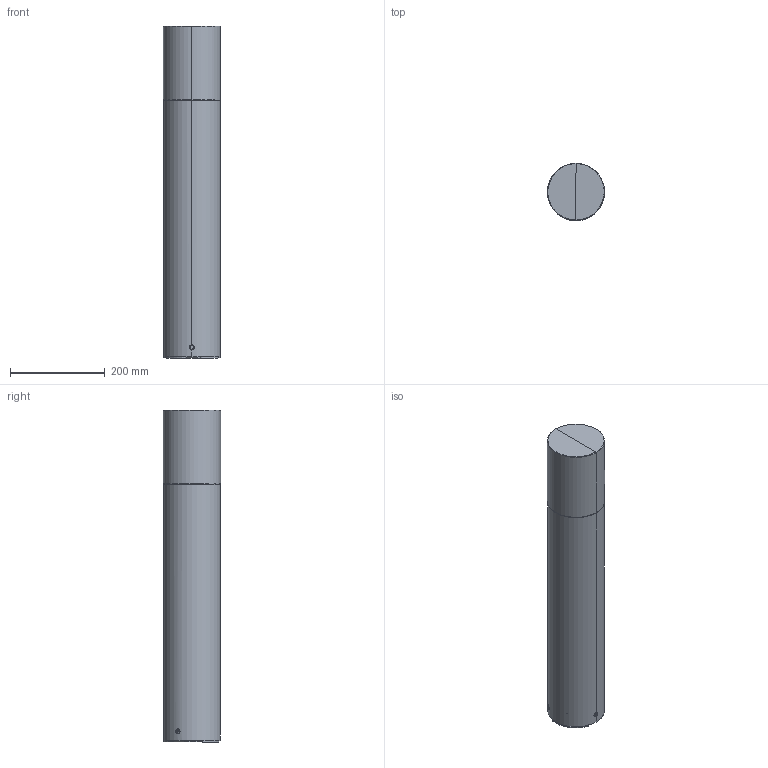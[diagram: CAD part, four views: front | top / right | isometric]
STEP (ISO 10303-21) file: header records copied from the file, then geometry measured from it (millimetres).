
FILE_DESCRIPTION(/* description */ (''),/* implementation_level */ '2;1');
FILE_NAME(/* name */ 'C:\Users\FrancoSartori\Documents\FARO\01_En Proceso\0000_2022\000_KILA\03_Publicación\H700.stp',/* time_stamp */ '2022-09-15T13:34:08+02:00',/* author */ ('FrancoSartori'),/* organization */ (''),/* preprocessor_version */ 'ST-DEVELOPER v19.2',/* originating_system */ 'AutoCAD Mechanical',/* authorisation */ '');
FILE_SCHEMA (('AUTOMOTIVE_DESIGN { 1 0 10303 214 3 1 1 }'));
Length unit declared in the file: millimetre
Products named in the file (2): Product; KILAB_ - LAMP-478192-Export
Assembly tree (1 placements, depth 2):
  Product
    KILAB_ - LAMP-478192-Export
Bounding box: 120.69 x 121 x 702.7 mm (x, y, z)
Volume: 5943785.3 mm3; surface area: 450184.6 mm2
Topology: 8 solids, 8 shells, 192 faces, 464 edges, 288 vertices
Faces by surface type: plane 100, cylinder 72, cone 10, torus 10
Entity records: 6344 total; most frequent: CARTESIAN_POINT 1820, ORIENTED_EDGE 928, DIRECTION 919, EDGE_CURVE 464, AXIS2_PLACEMENT_3D 334, VERTEX_POINT 288, LINE 251, VECTOR 251
